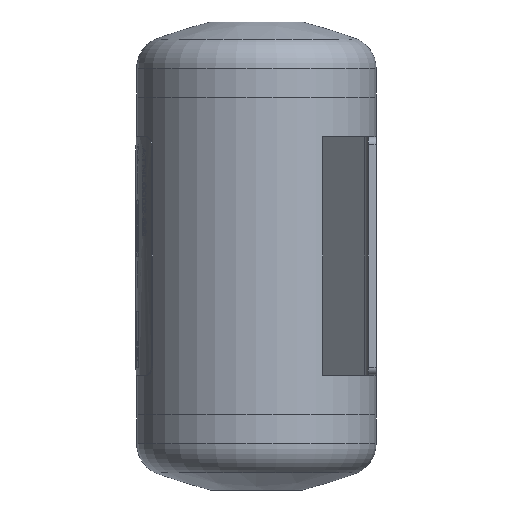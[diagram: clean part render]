
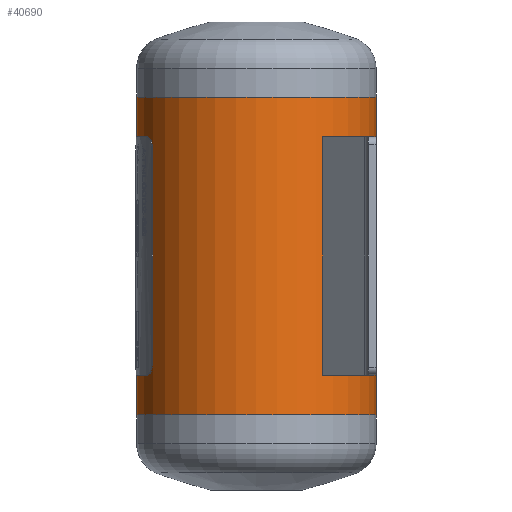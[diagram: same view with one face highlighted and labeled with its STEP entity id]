
A CAD part, front view. The second image highlights one B-rep face of the part: STEP entity #40690.
In plain terms, the highlighted cylindrical face has radius 30.15 mm (diameter 60.3 mm), a full revolution.
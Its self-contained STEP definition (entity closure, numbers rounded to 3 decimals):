
#4369=LINE('',#51468,#7282);
#7282=VECTOR('',#45006,30.15);
#10195=CYLINDRICAL_SURFACE('',#43217,30.15);
#10700=FACE_OUTER_BOUND('',#13087,.T.);
#13087=EDGE_LOOP('',(#27129,#27130,#27131,#27132));
#15718=CIRCLE('',#43213,30.15);
#15721=CIRCLE('',#43218,30.15);
#16449=VERTEX_POINT('',#51457);
#16452=VERTEX_POINT('',#51466);
#20717=EDGE_CURVE('',#16449,#16449,#15718,.T.);
#20721=EDGE_CURVE('',#16452,#16452,#15721,.T.);
#20722=EDGE_CURVE('',#16452,#16449,#4369,.T.);
#27129=ORIENTED_EDGE('',*,*,#20721,.F.);
#27130=ORIENTED_EDGE('',*,*,#20722,.T.);
#27131=ORIENTED_EDGE('',*,*,#20717,.F.);
#27132=ORIENTED_EDGE('',*,*,#20722,.F.);
#40690=ADVANCED_FACE('',(#10700),#10195,.T.);
#43213=AXIS2_PLACEMENT_3D('',#51458,#44993,#44994);
#43217=AXIS2_PLACEMENT_3D('',#51465,#45002,#45003);
#43218=AXIS2_PLACEMENT_3D('',#51467,#45004,#45005);
#44993=DIRECTION('center_axis',(0.,0.,-1.));
#44994=DIRECTION('ref_axis',(1.,0.,0.));
#45002=DIRECTION('center_axis',(0.,0.,1.));
#45003=DIRECTION('ref_axis',(1.,0.,0.));
#45004=DIRECTION('center_axis',(0.,0.,1.));
#45005=DIRECTION('ref_axis',(1.,0.,0.));
#45006=DIRECTION('',(0.,0.,-1.));
#51457=CARTESIAN_POINT('',(-30.15,0.,-40.));
#51458=CARTESIAN_POINT('Origin',(0.,0.,-40.));
#51465=CARTESIAN_POINT('Origin',(0.,0.,0.));
#51466=CARTESIAN_POINT('',(-30.15,0.,40.));
#51467=CARTESIAN_POINT('Origin',(0.,0.,40.));
#51468=CARTESIAN_POINT('',(-30.15,0.,0.));
